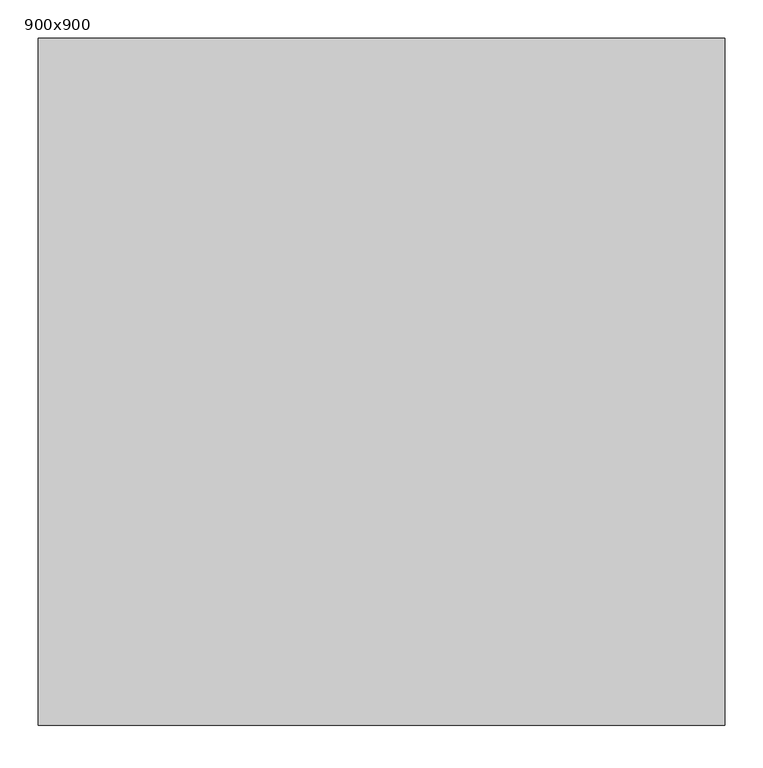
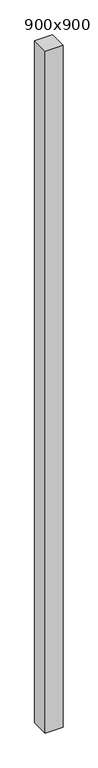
"""IFC4 building model written with IfcOpenShell, lengths in millimetres: column geometry, r 矩形柱 : 900x900."""

from ifc_helpers import new_model, si_unit, frame, origin, place, context, project, spatial, polyline, outline, extrude, source, transform, mapped, element, save


def column_900x900_790a040f(model_context):
    return source(origin(), model_context, "Body", "SweptSolid", [
        extrude(outline(polyline([(450.0, -450.0), (-450.0, -450.0), (-450.0, 450.0), (450.0, 450.0), (450.0, -450.0)])), frame((0.0, 0.0, -3500.0), z_axis=(0.0, 0.0, 1.0), x_axis=(1.0, 0.0, 0.0)), (0.0, 0.0, 1.0), 36100.0),
    ])


if __name__ == "__main__":
    model = new_model("IFC4")
    model_context = context("Model", 3, world=origin())
    ifc_project = project(units=[si_unit("LENGTHUNIT", "METRE", prefix="MILLI")], contexts=[model_context])
    site = spatial("IfcSite", under=ifc_project)
    building = spatial("IfcBuilding", under=site)
    placement = place(None, origin())
    column_900x900_shape = column_900x900_790a040f(model_context)
    element("IfcColumn", 1, ObjectType="r 矩形柱 : 900x900", at=placement, inside=building, context=model_context, shape_type="MappedRepresentation", body=[
        mapped(column_900x900_shape, transform((0.0, 0.0, 0.0), x_axis=(1.0, 0.0, 0.0), y_axis=(0.0, 1.0, 0.0), z_axis=(0.0, 0.0, 1.0))),
    ])
    save(model, "model.ifc")
